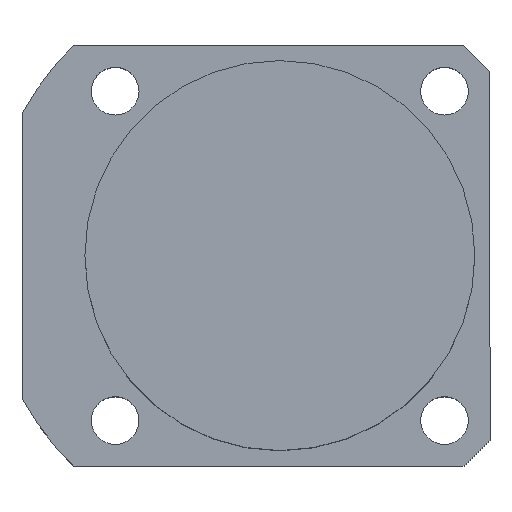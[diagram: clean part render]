
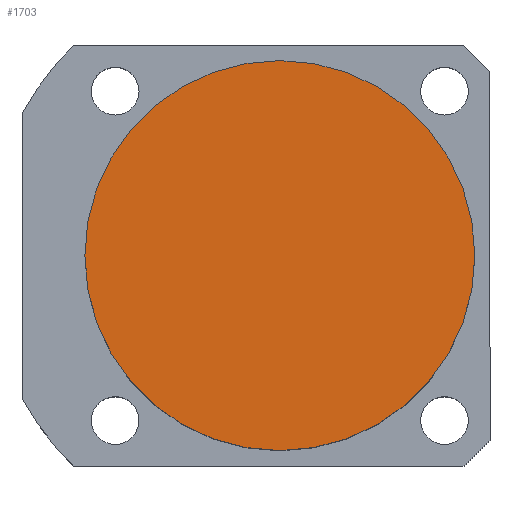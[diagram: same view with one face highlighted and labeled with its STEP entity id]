
A CAD part, top view. The second image highlights one B-rep face of the part: STEP entity #1703.
In plain terms, the highlighted planar face has unit normal (0, 0, 1).
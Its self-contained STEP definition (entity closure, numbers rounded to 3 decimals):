
#6 = EDGE_CURVE ( 'NONE', #1508, #312, #1754, .T. ) ;
#10 = DIRECTION ( 'NONE',  ( 1., 0., 0. ) ) ;
#33 = CARTESIAN_POINT ( 'NONE',  ( 0., 0., 54.5 ) ) ;
#159 = PLANE ( 'NONE',  #1924 ) ;
#312 = VERTEX_POINT ( 'NONE', #1802 ) ;
#345 = CARTESIAN_POINT ( 'NONE',  ( 0., 0., 54.5 ) ) ;
#537 = EDGE_CURVE ( 'NONE', #312, #1508, #1353, .T. ) ;
#778 = CARTESIAN_POINT ( 'NONE',  ( -45., 0., 54.5 ) ) ;
#867 = AXIS2_PLACEMENT_3D ( 'NONE', #345, #2024, #2035 ) ;
#975 = ORIENTED_EDGE ( 'NONE', *, *, #6, .T. ) ;
#1001 = DIRECTION ( 'NONE',  ( 0., 0., 1. ) ) ;
#1008 = CARTESIAN_POINT ( 'NONE',  ( 0., 0., 54.5 ) ) ;
#1050 = ORIENTED_EDGE ( 'NONE', *, *, #537, .T. ) ;
#1190 = FACE_OUTER_BOUND ( 'NONE', #1867, .T. ) ;
#1229 = DIRECTION ( 'NONE',  ( 1., 0., 0. ) ) ;
#1353 = CIRCLE ( 'NONE', #867, 45. ) ;
#1508 = VERTEX_POINT ( 'NONE', #778 ) ;
#1703 = ADVANCED_FACE ( 'NONE', ( #1190 ), #159, .T. ) ;
#1754 = CIRCLE ( 'NONE', #2066, 45. ) ;
#1802 = CARTESIAN_POINT ( 'NONE',  ( 45., 0., 54.5 ) ) ;
#1867 = EDGE_LOOP ( 'NONE', ( #975, #1050 ) ) ;
#1919 = DIRECTION ( 'NONE',  ( 0., 0., 1. ) ) ;
#1924 = AXIS2_PLACEMENT_3D ( 'NONE', #1008, #1919, #1229 ) ;
#2024 = DIRECTION ( 'NONE',  ( 0., 0., 1. ) ) ;
#2035 = DIRECTION ( 'NONE',  ( 1., 0., 0. ) ) ;
#2066 = AXIS2_PLACEMENT_3D ( 'NONE', #33, #1001, #10 ) ;
